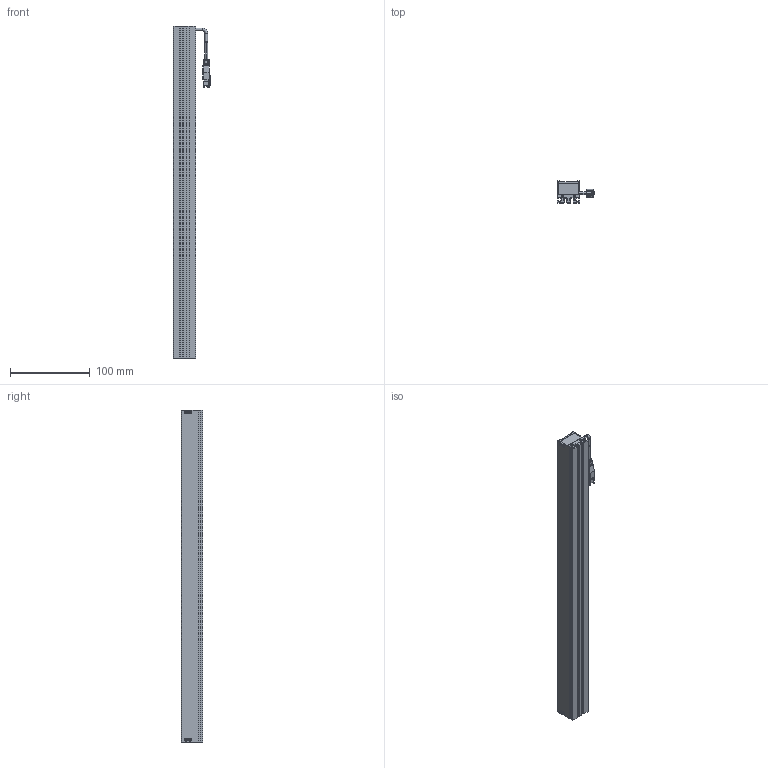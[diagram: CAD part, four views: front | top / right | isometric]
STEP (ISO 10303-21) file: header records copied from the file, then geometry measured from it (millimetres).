
FILE_DESCRIPTION (( 'STEP AP203' ), '1' );
FILE_NAME ('CST-2BS41728-¼òÒ×3DÍ¼.STEP', '2021-06-15T06:55:27', ( '' ), ( '' ), 'SwSTEP 2.0', 'SolidWorks 2018', '' );
FILE_SCHEMA (( 'CONFIG_CONTROL_DESIGN' ));
Length unit declared in the file: millimetre
Products named in the file (1): CST-2BS41728-潠眢3D芞
Bounding box: 46.62 x 27 x 417 mm (x, y, z)
Surface area: 146241.5 mm2 (no closed solid volume)
Topology: 0 solids, 15 shells, 538 faces, 1438 edges, 913 vertices
Faces by surface type: plane 299, cylinder 154, cone 51, bspline 28, torus 6
Entity records: 17263 total; most frequent: CARTESIAN_POINT 3930, ORIENTED_EDGE 2789, DIRECTION 2697, EDGE_CURVE 1418, LINE 977, VECTOR 977, VERTEX_POINT 913, AXIS2_PLACEMENT_3D 860
